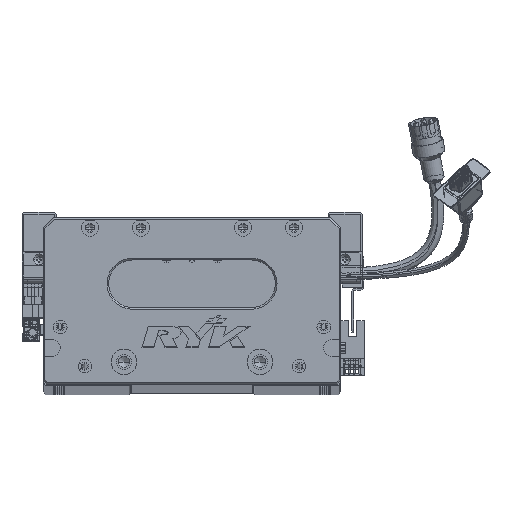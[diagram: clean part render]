
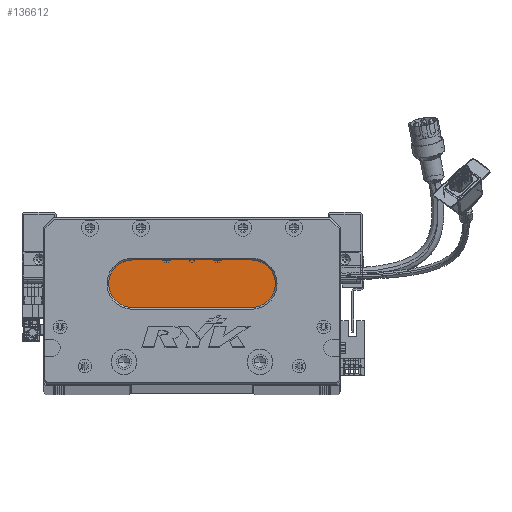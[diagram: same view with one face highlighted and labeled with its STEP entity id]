
A CAD part, top view. The second image highlights one B-rep face of the part: STEP entity #136612.
In plain terms, the highlighted planar face has unit normal (0, 0, 1) as drawn and (0, 0, -1) by its records, which use the part's own axes.
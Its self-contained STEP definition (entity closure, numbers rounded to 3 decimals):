
#736 = CARTESIAN_POINT ( 'NONE',  ( 52.5, 73., 18. ) ) ;
#4514 = CARTESIAN_POINT ( 'NONE',  ( 122.5, 73., 18. ) ) ;
#6919 = ORIENTED_EDGE ( 'NONE', *, *, #93772, .T. ) ;
#8994 = VERTEX_POINT ( 'NONE', #12096 ) ;
#12096 = CARTESIAN_POINT ( 'NONE',  ( 38.5, 59., 18. ) ) ;
#12923 = CARTESIAN_POINT ( 'NONE',  ( 52.5, 59., 18. ) ) ;
#16271 = EDGE_CURVE ( 'NONE', #8994, #122591, #133409, .T. ) ;
#16280 = DIRECTION ( 'NONE',  ( 1., 0., 0. ) ) ;
#17779 = EDGE_CURVE ( 'NONE', #131742, #8994, #82063, .T. ) ;
#18785 = ORIENTED_EDGE ( 'NONE', *, *, #16271, .T. ) ;
#19501 = VECTOR ( 'NONE', #137319, 1000. ) ;
#20063 = EDGE_CURVE ( 'NONE', #138520, #75682, #121929, .T. ) ;
#24741 = CARTESIAN_POINT ( 'NONE',  ( 122.5, 73., 18. ) ) ;
#25485 = VECTOR ( 'NONE', #16280, 1000. ) ;
#29451 = DIRECTION ( 'NONE',  ( -1., 0., 0. ) ) ;
#34039 = DIRECTION ( 'NONE',  ( -1., 0., 0. ) ) ;
#45284 = DIRECTION ( 'NONE',  ( 0., 0., -1. ) ) ;
#45604 = ORIENTED_EDGE ( 'NONE', *, *, #20063, .T. ) ;
#50724 = EDGE_CURVE ( 'NONE', #122591, #138520, #112789, .T. ) ;
#56859 = CARTESIAN_POINT ( 'NONE',  ( 122.5, 45., 18. ) ) ;
#61240 = DIRECTION ( 'NONE',  ( -1., 0., 0. ) ) ;
#69045 = AXIS2_PLACEMENT_3D ( 'NONE', #12923, #45284, #34039 ) ;
#75682 = VERTEX_POINT ( 'NONE', #56859 ) ;
#76465 = AXIS2_PLACEMENT_3D ( 'NONE', #90297, #110069, #100226 ) ;
#78147 = LINE ( 'NONE', #116702, #19501 ) ;
#78960 = ORIENTED_EDGE ( 'NONE', *, *, #17779, .T. ) ;
#80552 = EDGE_LOOP ( 'NONE', ( #45604, #6919, #78960, #18785, #106550 ) ) ;
#82063 = CIRCLE ( 'NONE', #137456, 14. ) ;
#86508 = FACE_OUTER_BOUND ( 'NONE', #80552, .T. ) ;
#90297 = CARTESIAN_POINT ( 'NONE',  ( 122.5, 59., 18. ) ) ;
#93772 = EDGE_CURVE ( 'NONE', #75682, #131742, #78147, .T. ) ;
#99774 = PLANE ( 'NONE',  #76465 ) ;
#100226 = DIRECTION ( 'NONE',  ( -1., 0., 0. ) ) ;
#103053 = DIRECTION ( 'NONE',  ( 0., 0., -1. ) ) ;
#103971 = CARTESIAN_POINT ( 'NONE',  ( 122.5, 59., 18. ) ) ;
#104969 = DIRECTION ( 'NONE',  ( 0., 0., -1. ) ) ;
#105434 = CARTESIAN_POINT ( 'NONE',  ( 52.5, 59., 18. ) ) ;
#106550 = ORIENTED_EDGE ( 'NONE', *, *, #50724, .T. ) ;
#110069 = DIRECTION ( 'NONE',  ( 0., 0., -1. ) ) ;
#112789 = LINE ( 'NONE', #24741, #25485 ) ;
#114248 = AXIS2_PLACEMENT_3D ( 'NONE', #103971, #103053, #61240 ) ;
#116702 = CARTESIAN_POINT ( 'NONE',  ( 122.5, 45., 18. ) ) ;
#121929 = CIRCLE ( 'NONE', #114248, 14. ) ;
#122591 = VERTEX_POINT ( 'NONE', #736 ) ;
#126555 = CARTESIAN_POINT ( 'NONE',  ( 52.5, 45., 18. ) ) ;
#131742 = VERTEX_POINT ( 'NONE', #126555 ) ;
#133409 = CIRCLE ( 'NONE', #69045, 14. ) ;
#136612 = ADVANCED_FACE ( 'NONE', ( #86508 ), #99774, .T. ) ;
#137319 = DIRECTION ( 'NONE',  ( -1., 0., 0. ) ) ;
#137456 = AXIS2_PLACEMENT_3D ( 'NONE', #105434, #104969, #29451 ) ;
#138520 = VERTEX_POINT ( 'NONE', #4514 ) ;
